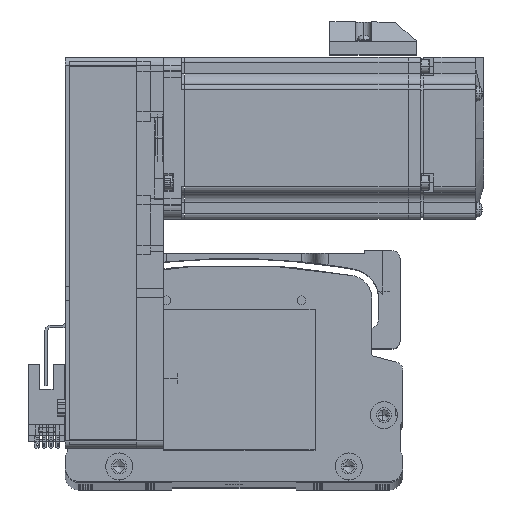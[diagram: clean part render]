
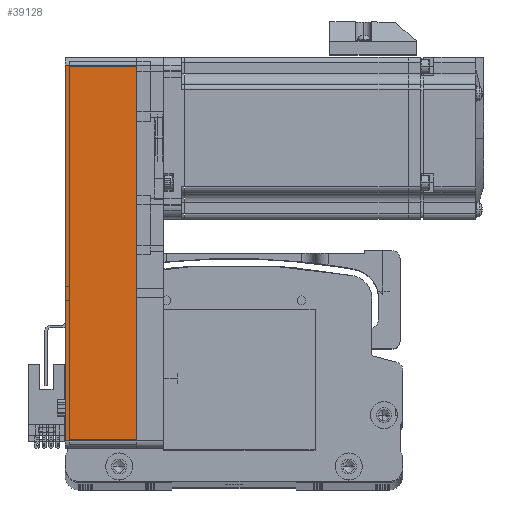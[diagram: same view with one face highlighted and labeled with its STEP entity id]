
A CAD part, top view. The second image highlights one B-rep face of the part: STEP entity #39128.
In plain terms, the highlighted planar face has unit normal (0, 0, 1) as drawn and (0, -1, 0) by its records, which use the part's own axes.
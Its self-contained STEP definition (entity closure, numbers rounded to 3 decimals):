
#902 = CARTESIAN_POINT ( 'NONE',  ( 72.5, -30., 0. ) ) ;
#961 = LINE ( 'NONE', #58802, #50604 ) ;
#4734 = DIRECTION ( 'NONE',  ( 0., 0., -1. ) ) ;
#5568 = EDGE_CURVE ( 'NONE', #13235, #61707, #961, .T. ) ;
#8901 = VECTOR ( 'NONE', #67250, 1000. ) ;
#12148 = PLANE ( 'NONE',  #23779 ) ;
#12440 = DIRECTION ( 'NONE',  ( 0., 1., 0. ) ) ;
#13235 = VERTEX_POINT ( 'NONE', #21598 ) ;
#20935 = LINE ( 'NONE', #902, #38887 ) ;
#21598 = CARTESIAN_POINT ( 'NONE',  ( -69.5, -30., 26.5 ) ) ;
#21755 = EDGE_LOOP ( 'NONE', ( #46329, #70086, #76973, #33994 ) ) ;
#23779 = AXIS2_PLACEMENT_3D ( 'NONE', #52894, #12440, #59718 ) ;
#28511 = CARTESIAN_POINT ( 'NONE',  ( -69.5, -30., 0. ) ) ;
#33994 = ORIENTED_EDGE ( 'NONE', *, *, #5568, .T. ) ;
#37400 = EDGE_CURVE ( 'NONE', #13235, #72909, #62829, .T. ) ;
#38887 = VECTOR ( 'NONE', #41654, 1000. ) ;
#39128 = ADVANCED_FACE ( 'NONE', ( #68684 ), #12148, .F. ) ;
#41654 = DIRECTION ( 'NONE',  ( 1., 0., 0. ) ) ;
#42281 = LINE ( 'NONE', #69046, #58138 ) ;
#46329 = ORIENTED_EDGE ( 'NONE', *, *, #70287, .T. ) ;
#50604 = VECTOR ( 'NONE', #4734, 1000. ) ;
#52894 = CARTESIAN_POINT ( 'NONE',  ( 72.5, -30., 26.5 ) ) ;
#58138 = VECTOR ( 'NONE', #75836, 1000. ) ;
#58802 = CARTESIAN_POINT ( 'NONE',  ( -69.5, -30., 26.5 ) ) ;
#59718 = DIRECTION ( 'NONE',  ( -1., 0., 0. ) ) ;
#60474 = CARTESIAN_POINT ( 'NONE',  ( 72.5, -30., 26.5 ) ) ;
#61707 = VERTEX_POINT ( 'NONE', #28511 ) ;
#62829 = LINE ( 'NONE', #60474, #8901 ) ;
#66091 = EDGE_CURVE ( 'NONE', #87441, #72909, #42281, .T. ) ;
#67250 = DIRECTION ( 'NONE',  ( 1., 0., 0. ) ) ;
#67620 = CARTESIAN_POINT ( 'NONE',  ( 69.5, -30., 26.5 ) ) ;
#68684 = FACE_OUTER_BOUND ( 'NONE', #21755, .T. ) ;
#69046 = CARTESIAN_POINT ( 'NONE',  ( 69.5, -30., 26.5 ) ) ;
#70086 = ORIENTED_EDGE ( 'NONE', *, *, #66091, .T. ) ;
#70287 = EDGE_CURVE ( 'NONE', #61707, #87441, #20935, .T. ) ;
#72909 = VERTEX_POINT ( 'NONE', #67620 ) ;
#75836 = DIRECTION ( 'NONE',  ( 0., 0., 1. ) ) ;
#76973 = ORIENTED_EDGE ( 'NONE', *, *, #37400, .F. ) ;
#80570 = CARTESIAN_POINT ( 'NONE',  ( 69.5, -30., 0. ) ) ;
#87441 = VERTEX_POINT ( 'NONE', #80570 ) ;
